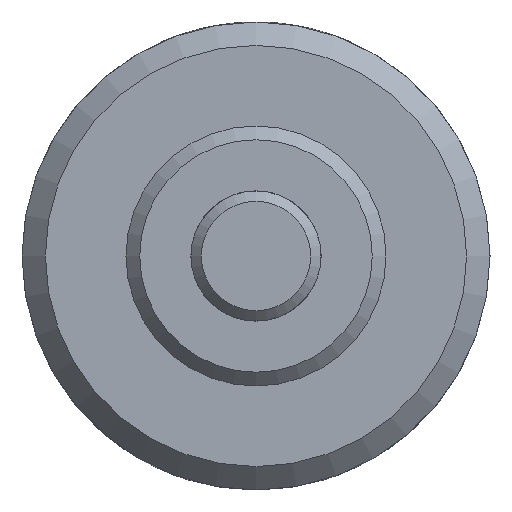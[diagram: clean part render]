
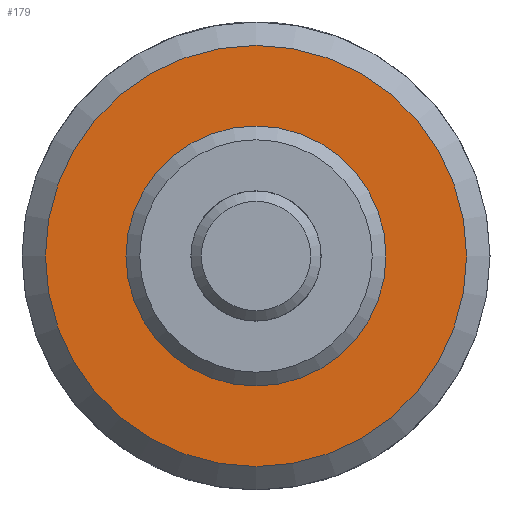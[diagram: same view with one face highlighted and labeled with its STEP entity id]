
A CAD part, left-side view. The second image highlights one B-rep face of the part: STEP entity #179.
In plain terms, the highlighted planar face has unit normal (-1, 0, 0).
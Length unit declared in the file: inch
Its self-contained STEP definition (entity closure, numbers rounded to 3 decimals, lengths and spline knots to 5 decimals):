
#179 = ADVANCED_FACE( '', ( #366, #367 ), #368, .F. );
#366 = FACE_OUTER_BOUND( '', #564, .T. );
#367 = FACE_BOUND( '', #565, .T. );
#368 = PLANE( '', #566 );
#564 = EDGE_LOOP( '', ( #863 ) );
#565 = EDGE_LOOP( '', ( #864 ) );
#566 = AXIS2_PLACEMENT_3D( '', #865, #866, #867 );
#863 = ORIENTED_EDGE( '', *, *, #1087, .F. );
#864 = ORIENTED_EDGE( '', *, *, #1039, .T. );
#865 = CARTESIAN_POINT( '', ( 0.5, 0.312, 0. ) );
#866 = DIRECTION( '', ( 1., 0., 0. ) );
#867 = DIRECTION( '', ( 0., 0., -1. ) );
#1039 = EDGE_CURVE( '', #1196, #1196, #1197, .T. );
#1087 = EDGE_CURVE( '', #1262, #1262, #1263, .T. );
#1196 = VERTEX_POINT( '', #1399 );
#1197 = CIRCLE( '', #1400, 0.312 );
#1262 = VERTEX_POINT( '', #1556 );
#1263 = CIRCLE( '', #1557, 0.50625 );
#1399 = CARTESIAN_POINT( '', ( 0.5, 0., -0.312 ) );
#1400 = AXIS2_PLACEMENT_3D( '', #1668, #1669, #1670 );
#1556 = CARTESIAN_POINT( '', ( 0.5, 0., -0.50625 ) );
#1557 = AXIS2_PLACEMENT_3D( '', #1724, #1725, #1726 );
#1668 = CARTESIAN_POINT( '', ( 0.5, 0., 0. ) );
#1669 = DIRECTION( '', ( 1., 0., 0. ) );
#1670 = DIRECTION( '', ( 0., 0., -1. ) );
#1724 = CARTESIAN_POINT( '', ( 0.5, 0., 0. ) );
#1725 = DIRECTION( '', ( 1., 0., 0. ) );
#1726 = DIRECTION( '', ( 0., 0., -1. ) );
